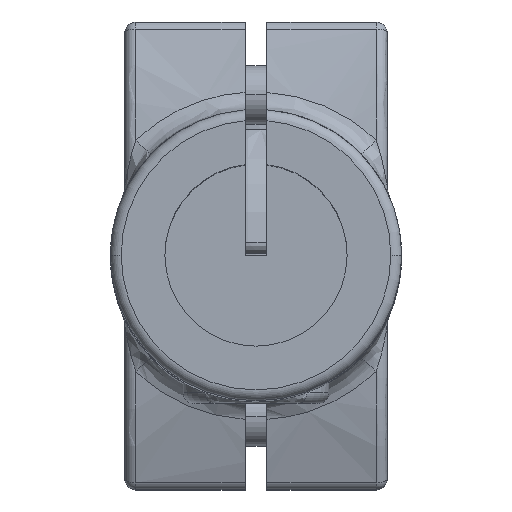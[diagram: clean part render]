
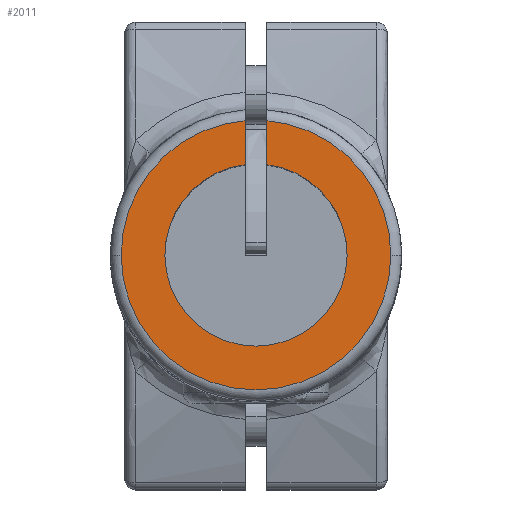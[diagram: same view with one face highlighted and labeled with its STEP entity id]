
A CAD part, top view. The second image highlights one B-rep face of the part: STEP entity #2011.
In plain terms, the highlighted planar face has unit normal (0, 0, 1) as drawn and (0, 0, -1) by its records, which use the part's own axes.
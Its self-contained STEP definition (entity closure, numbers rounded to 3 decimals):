
#138 = CARTESIAN_POINT ( 'NONE',  ( 0., 0., 0. ) ) ;
#140 = AXIS2_PLACEMENT_3D ( 'NONE', #1680, #1768, #5361 ) ;
#159 = VERTEX_POINT ( 'NONE', #271 ) ;
#271 = CARTESIAN_POINT ( 'NONE',  ( 18.5, 0., 0. ) ) ;
#586 = CARTESIAN_POINT ( 'NONE',  ( -1.5, 18.439, 0. ) ) ;
#897 = CIRCLE ( 'NONE', #10282, 18.5 ) ;
#1208 = DIRECTION ( 'NONE',  ( 0., 0., 1. ) ) ;
#1299 = EDGE_CURVE ( 'NONE', #9587, #12081, #12982, .T. ) ;
#1680 = CARTESIAN_POINT ( 'NONE',  ( 0., 0., 0. ) ) ;
#1768 = DIRECTION ( 'NONE',  ( 0., 0., -1. ) ) ;
#1867 = CARTESIAN_POINT ( 'NONE',  ( 12.5, 0., 0. ) ) ;
#2011 = ADVANCED_FACE ( 'NONE', ( #6328 ), #3996, .F. ) ;
#2409 = EDGE_CURVE ( 'NONE', #8724, #11119, #13313, .T. ) ;
#2829 = CARTESIAN_POINT ( 'NONE',  ( 1.5, 18.439, 0. ) ) ;
#3027 = DIRECTION ( 'NONE',  ( 0., 0., -1. ) ) ;
#3292 = CARTESIAN_POINT ( 'NONE',  ( -12.5, 0., 0. ) ) ;
#3556 = CIRCLE ( 'NONE', #6732, 12.5 ) ;
#3577 = CARTESIAN_POINT ( 'NONE',  ( 0., 0., 0. ) ) ;
#3817 = DIRECTION ( 'NONE',  ( -1., 0., 0. ) ) ;
#3996 = PLANE ( 'NONE',  #5006 ) ;
#4007 = ORIENTED_EDGE ( 'NONE', *, *, #1299, .T. ) ;
#4212 = EDGE_CURVE ( 'NONE', #11119, #8547, #15375, .T. ) ;
#4703 = DIRECTION ( 'NONE',  ( -1., 0., 0. ) ) ;
#5006 = AXIS2_PLACEMENT_3D ( 'NONE', #9271, #16527, #11771 ) ;
#5093 = EDGE_LOOP ( 'NONE', ( #7279, #14825, #11489, #4007, #15124, #12508, #7181, #16156 ) ) ;
#5138 = VECTOR ( 'NONE', #15997, 1000. ) ;
#5361 = DIRECTION ( 'NONE',  ( 1., 0., 0. ) ) ;
#5581 = VERTEX_POINT ( 'NONE', #14426 ) ;
#6328 = FACE_OUTER_BOUND ( 'NONE', #5093, .T. ) ;
#6380 = CARTESIAN_POINT ( 'NONE',  ( -1.5, 0., 0. ) ) ;
#6732 = AXIS2_PLACEMENT_3D ( 'NONE', #138, #13869, #12708 ) ;
#6833 = AXIS2_PLACEMENT_3D ( 'NONE', #3577, #1208, #3817 ) ;
#7072 = LINE ( 'NONE', #10919, #5138 ) ;
#7181 = ORIENTED_EDGE ( 'NONE', *, *, #2409, .T. ) ;
#7279 = ORIENTED_EDGE ( 'NONE', *, *, #9405, .F. ) ;
#7552 = AXIS2_PLACEMENT_3D ( 'NONE', #15791, #3027, #8049 ) ;
#7815 = VERTEX_POINT ( 'NONE', #2829 ) ;
#8049 = DIRECTION ( 'NONE',  ( 1., 0., 0. ) ) ;
#8165 = DIRECTION ( 'NONE',  ( 0., 0., 1. ) ) ;
#8547 = VERTEX_POINT ( 'NONE', #8593 ) ;
#8593 = CARTESIAN_POINT ( 'NONE',  ( 1.5, 12.41, 0. ) ) ;
#8724 = VERTEX_POINT ( 'NONE', #3292 ) ;
#9246 = CARTESIAN_POINT ( 'NONE',  ( -18.5, 0., 0. ) ) ;
#9271 = CARTESIAN_POINT ( 'NONE',  ( 0., 0., 0. ) ) ;
#9405 = EDGE_CURVE ( 'NONE', #7815, #8547, #7072, .T. ) ;
#9573 = EDGE_CURVE ( 'NONE', #5581, #12081, #12918, .T. ) ;
#9587 = VERTEX_POINT ( 'NONE', #9246 ) ;
#10137 = EDGE_CURVE ( 'NONE', #159, #9587, #10248, .T. ) ;
#10248 = CIRCLE ( 'NONE', #7552, 18.5 ) ;
#10282 = AXIS2_PLACEMENT_3D ( 'NONE', #12270, #11002, #16082 ) ;
#10919 = CARTESIAN_POINT ( 'NONE',  ( 1.5, 0., 0. ) ) ;
#11002 = DIRECTION ( 'NONE',  ( 0., 0., -1. ) ) ;
#11119 = VERTEX_POINT ( 'NONE', #1867 ) ;
#11489 = ORIENTED_EDGE ( 'NONE', *, *, #10137, .T. ) ;
#11710 = AXIS2_PLACEMENT_3D ( 'NONE', #16128, #8165, #4703 ) ;
#11771 = DIRECTION ( 'NONE',  ( 1., 0., 0. ) ) ;
#12081 = VERTEX_POINT ( 'NONE', #586 ) ;
#12270 = CARTESIAN_POINT ( 'NONE',  ( 0., 0., 0. ) ) ;
#12508 = ORIENTED_EDGE ( 'NONE', *, *, #15832, .T. ) ;
#12708 = DIRECTION ( 'NONE',  ( -1., 0., 0. ) ) ;
#12918 = LINE ( 'NONE', #6380, #14759 ) ;
#12982 = CIRCLE ( 'NONE', #140, 18.5 ) ;
#13238 = EDGE_CURVE ( 'NONE', #7815, #159, #897, .T. ) ;
#13313 = CIRCLE ( 'NONE', #11710, 12.5 ) ;
#13869 = DIRECTION ( 'NONE',  ( 0., 0., 1. ) ) ;
#14426 = CARTESIAN_POINT ( 'NONE',  ( -1.5, 12.41, 0. ) ) ;
#14759 = VECTOR ( 'NONE', #15654, 1000. ) ;
#14825 = ORIENTED_EDGE ( 'NONE', *, *, #13238, .T. ) ;
#15124 = ORIENTED_EDGE ( 'NONE', *, *, #9573, .F. ) ;
#15375 = CIRCLE ( 'NONE', #6833, 12.5 ) ;
#15654 = DIRECTION ( 'NONE',  ( 0., 1., 0. ) ) ;
#15791 = CARTESIAN_POINT ( 'NONE',  ( 0., 0., 0. ) ) ;
#15832 = EDGE_CURVE ( 'NONE', #5581, #8724, #3556, .T. ) ;
#15997 = DIRECTION ( 'NONE',  ( 0., -1., 0. ) ) ;
#16082 = DIRECTION ( 'NONE',  ( 1., 0., 0. ) ) ;
#16128 = CARTESIAN_POINT ( 'NONE',  ( 0., 0., 0. ) ) ;
#16156 = ORIENTED_EDGE ( 'NONE', *, *, #4212, .T. ) ;
#16527 = DIRECTION ( 'NONE',  ( 0., 0., 1. ) ) ;
